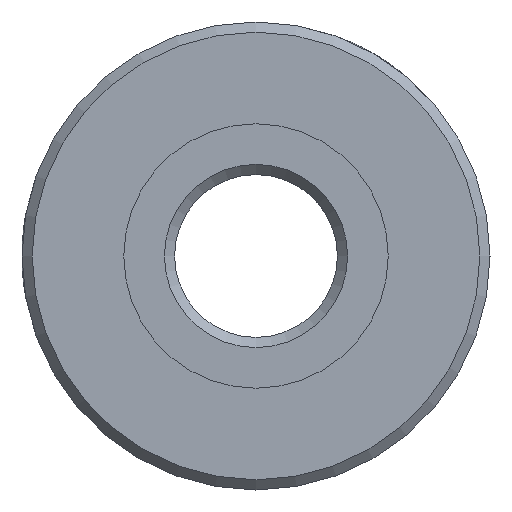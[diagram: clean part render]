
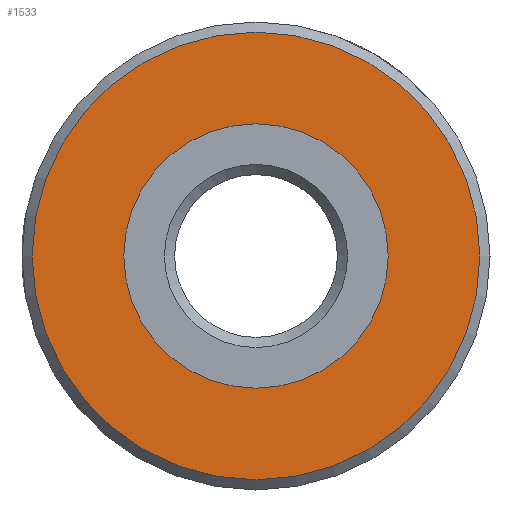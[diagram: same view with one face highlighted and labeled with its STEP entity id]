
A CAD part, left-side view. The second image highlights one B-rep face of the part: STEP entity #1533.
In plain terms, the highlighted planar face has unit normal (-1, 0, 0).
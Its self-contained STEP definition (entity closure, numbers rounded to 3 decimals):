
#1533=ADVANCED_FACE('',(#7816,#7818),#7820,.T.);
#7816=FACE_BOUND('',#7817,.T.);
#7817=EDGE_LOOP('',(#9066));
#7818=FACE_BOUND('',#7819,.T.);
#7819=EDGE_LOOP('',(#9067));
#7820=PLANE('',#7821);
#7821=AXIS2_PLACEMENT_3D('',#7822,#7823,#7824);
#7822=CARTESIAN_POINT('',(-10.,0.,0.));
#7823=DIRECTION('',(-1.,0.,-0.));
#7824=DIRECTION('',(0.,0.,-1.));
#9066=ORIENTED_EDGE('',*,*,#9548,.T.);
#9067=ORIENTED_EDGE('',*,*,#9543,.T.);
#9543=EDGE_CURVE('',#10330,#10330,#10331,.F.);
#9548=EDGE_CURVE('',#10340,#10340,#10341,.T.);
#10330=VERTEX_POINT('',#14034);
#10331=CIRCLE('',#14035,6.5);
#10340=VERTEX_POINT('',#14219);
#10341=CIRCLE('',#14220,11.);
#14034=CARTESIAN_POINT('',(-10.,0.,-6.5));
#14035=AXIS2_PLACEMENT_3D('',#14036,#14037,#14038);
#14036=CARTESIAN_POINT('',(-10.,0.,0.));
#14037=DIRECTION('',(-1.,0.,-0.));
#14038=DIRECTION('',(0.,0.,-1.));
#14219=CARTESIAN_POINT('',(-10.,0.,-11.));
#14220=AXIS2_PLACEMENT_3D('',#14221,#14222,#14223);
#14221=CARTESIAN_POINT('',(-10.,0.,0.));
#14222=DIRECTION('',(-1.,0.,-0.));
#14223=DIRECTION('',(0.,0.,-1.));
